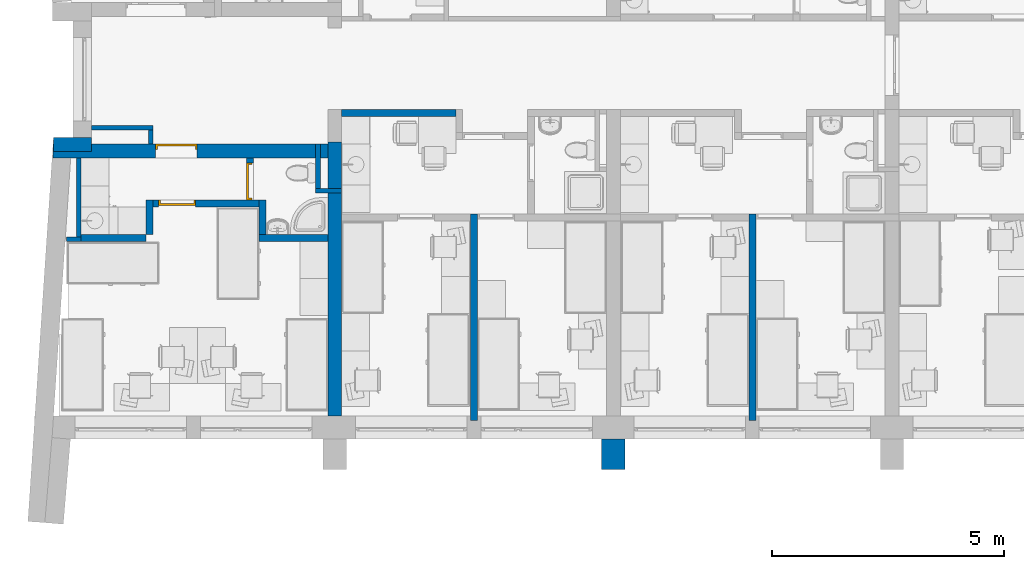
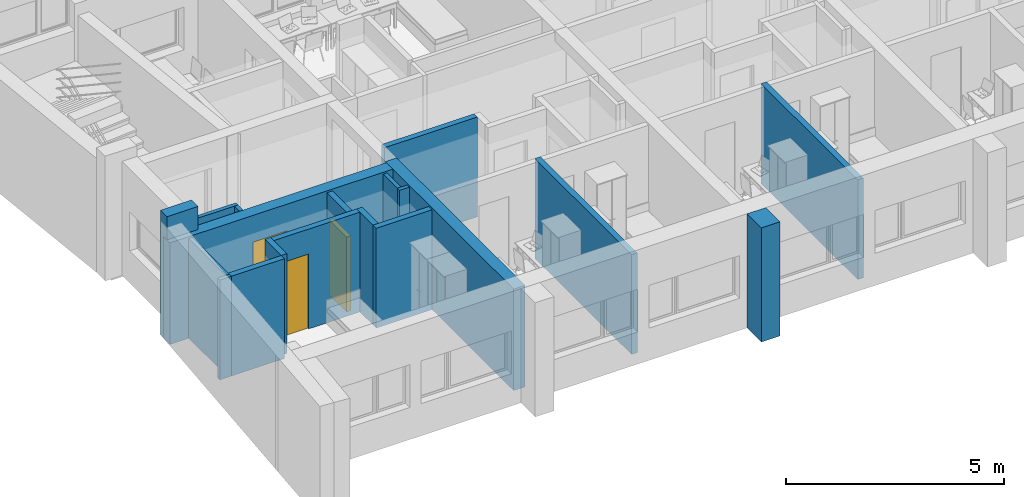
# One storey, part 2 of 165: 19 walls, 3 doors, 3 openings.
"""IFC2X3 building model written with IfcOpenShell, lengths in millimetres."""

from ifc_helpers import new_model, entity, si_unit, converted_unit, money_unit, direction, frame, origin_with_axes, place, context, subcontext, project, spatial, polyline, outline, extrude, faceted_brep, source, transform, mapped, material, material_list, layer, layer_set, layer_usage, type_object, element, fill, save


model = new_model("IFC2X3")

# Units and contexts
model_context = context("Model", 3, precision=1e-05, world=origin_with_axes(), true_north=direction((0.0, 1.0)))
body_context = subcontext(model_context, "Body", "Model", "MODEL_VIEW")
ifc_project = project(units=[si_unit("LENGTHUNIT", "METRE", prefix="MILLI"), si_unit("AREAUNIT", "SQUARE_METRE"), si_unit("VOLUMEUNIT", "CUBIC_METRE"), converted_unit("PLANEANGLEUNIT", "DEGREE", entity("IfcPlaneAngleMeasure", 0.0174532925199), si_unit("PLANEANGLEUNIT", "RADIAN"), dimensions=[0, 0, 0, 0, 0, 0, 0]), si_unit("SOLIDANGLEUNIT", "STERADIAN"), money_unit("USD"), converted_unit("TIMEUNIT", "Year", entity("IfcTimeMeasure", 31556926.0), si_unit("TIMEUNIT", "SECOND"), dimensions=[0, 0, 0, 0, 0, 0, 0]), si_unit("MASSUNIT", "GRAM"), si_unit("THERMODYNAMICTEMPERATUREUNIT", "DEGREE_CELSIUS"), si_unit("LUMINOUSINTENSITYUNIT", "LUMEN")], contexts=[model_context])

# Site, building, storey
site_placement = place(None, origin_with_axes())
site = spatial("IfcSite", under=ifc_project, at=site_placement, Name="Site", CompositionType="ELEMENT")
building_placement = place(site_placement, origin_with_axes())
building = spatial("IfcBuilding", under=site, at=building_placement, Name="Building", CompositionType="ELEMENT")
storey_placement = place(building_placement, frame((0.0, 0.0, 6300.0), z_axis=(0.0, 0.0, 1.0), x_axis=(1.0, 0.0, 0.0)))
storey = spatial("IfcBuildingStorey", under=building, at=storey_placement, Name="4KORRUS", CompositionType="ELEMENT", Elevation=6300.0)

# Walls
ifc_material_1 = material(Name="Olemasolevad seinad tellis, uus viimistlus")
ifc_layer_1 = layer(ifc_material_1, 300.0, ventilated="UNKNOWN")
ifc_layer_set_1 = layer_set([ifc_layer_1], Name="Olemasolevad seinad tellis, uus viimistlus 300")
ifc_layer_usage_1 = layer_usage(ifc_layer_set_1, "AXIS2", "POSITIVE", -300.0)
wall_type_1 = type_object("IfcWallType", Name="Olemasolevad seinad tellis, uus viimistlus 300", PredefinedType="NOTDEFINED")
wall_1_placement = place(storey_placement, frame((-54200.4261075, -13645.7452196, 0.0), z_axis=(0.0, 0.0, 1.0), x_axis=(1.0, 0.0, 0.0)))
element("IfcWallStandardCase", 1, at=wall_1_placement, inside=storey, type_object=wall_type_1, material=ifc_layer_usage_1, Name="VS1", ObjectType="VS1", context=body_context, shape_type="SweptSolid", body=[
    extrude(outline(polyline([(0.0, -300.0), (822.487950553, -300.0), (822.487950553, 0.0), (0.0, 0.0), (0.0, -300.0)])), origin_with_axes(), (0.0, 0.0, 1.0), 3500.0),
])
ifc_layer_2 = layer(ifc_material_1, 500.0, ventilated="UNKNOWN")
ifc_layer_set_2 = layer_set([ifc_layer_2], Name="Olemasolevad seinad tellis, uus viimistlus 500")
ifc_layer_usage_2 = layer_usage(ifc_layer_set_2, "AXIS2", "POSITIVE", -100.0)
wall_type_2 = type_object("IfcWallType", Name="Olemasolevad seinad tellis, uus viimistlus 500", PredefinedType="NOTDEFINED")
wall_2_placement = place(storey_placement, frame((-41990.2967033, -20796.6419407, 0.0), z_axis=(0.0, 0.0, 1.0), x_axis=(0.0, 1.0, 0.0)))
element("IfcWallStandardCase", 2, at=wall_2_placement, inside=storey, type_object=wall_type_2, material=ifc_layer_usage_2, Name="VS1", ObjectType="VS1", context=body_context, shape_type="SweptSolid", body=[
    extrude(outline(polyline([(0.0, -100.0), (657.402041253, -100.0), (657.402041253, 400.0), (0.0, 400.0), (0.0, -100.0)])), origin_with_axes(), (0.0, 0.0, 1.0), 3200.0),
])
ifc_material_2 = material(Name="UmbKipsplaat")
ifc_layer_3 = layer(ifc_material_2, 13.0, ventilated="UNKNOWN")
ifc_layer_4 = layer(ifc_material_2, 13.0, ventilated="UNKNOWN")
ifc_material_3 = material(Name="SOOJUSTUS MINERAALVILL")
ifc_layer_5 = layer(ifc_material_3, 98.0, ventilated="UNKNOWN")
ifc_layer_6 = layer(ifc_material_2, 13.0, ventilated="UNKNOWN")
ifc_layer_7 = layer(ifc_material_2, 13.0, ventilated="UNKNOWN")
ifc_layer_set_3 = layer_set([ifc_layer_3, ifc_layer_4, ifc_layer_5, ifc_layer_6, ifc_layer_7], Name="kipssein150")
ifc_layer_usage_3 = layer_usage(ifc_layer_set_3, "AXIS2", "POSITIVE", -150.0)
wall_type_3 = type_object("IfcWallType", Name="kipssein150 150", PredefinedType="NOTDEFINED")
wall_3_placement = place(storey_placement, frame((-49773.7651372, -15737.1785546, 0.0), z_axis=(0.0, 0.0, 1.0), x_axis=(1.0, 0.0, 0.0)))
element("IfcWallStandardCase", 3, at=wall_3_placement, inside=storey, type_object=wall_type_3, material=ifc_layer_usage_3, Name="SS1", ObjectType="SS1", context=body_context, shape_type="SweptSolid", body=[
    extrude(outline(polyline([(0.0, -150.0), (1483.46843392, -150.0), (1483.46843392, 0.0), (0.0, 0.0), (0.0, -150.0)])), origin_with_axes(), (0.0, 0.0, 1.0), 2800.0),
])
ifc_layer_usage_4 = layer_usage(ifc_layer_set_3, "AXIS2", "POSITIVE", 0.0)
wall_4_placement = place(storey_placement, frame((-52203.4064051, -15738.0262806, 0.0), z_axis=(0.0, 0.0, 1.0), x_axis=(-1.0, 0.0, 0.0)))
element("IfcWallStandardCase", 4, at=wall_4_placement, inside=storey, type_object=wall_type_3, material=ifc_layer_usage_4, Name="SS1", ObjectType="SS1", context=body_context, shape_type="SweptSolid", body=[
    extrude(outline(polyline([(0.0, 0.0), (1425.08570546, 0.0), (1425.08570546, 150.0), (0.0, 150.0), (0.0, 0.0)])), origin_with_axes(), (0.0, 0.0, 1.0), 2800.0),
])

# Wall, opening, door
ifc_layer_usage_5 = layer_usage(ifc_layer_set_3, "AXIS2", "POSITIVE", 0.0)
wall_5_placement = place(storey_placement, frame((-49773.7651372, -14989.5106464, 0.0), z_axis=(0.0, 0.0, 1.0), x_axis=(-1.0, 0.0, 0.0)))
wall_5 = element("IfcWallStandardCase", 5, at=wall_5_placement, inside=storey, type_object=wall_type_3, material=ifc_layer_usage_5, Name="SS1", ObjectType="SS1", context=body_context, shape_type="SweptSolid", body=[
    extrude(outline(polyline([(0.0, 0.0), (2429.64126784, 0.0), (2429.64126784, 150.0), (0.0, 150.0), (0.0, 0.0)])), origin_with_axes(), (0.0, 0.0, 1.0), 2800.0),
])
opening_1_placement = place(wall_5_placement, frame((1761.78052714, 0.0, 0.0), z_axis=(0.0, 0.0, 1.0), x_axis=(1.0, 0.0, 0.0)))
opening_1 = element("IfcOpeningElement", 6, at=opening_1_placement, cuts=wall_5, Name="SU3-5", context=body_context, shape_type="SweptSolid", body=[
    extrude(outline(polyline([(-400.0, 0.0), (400.0, 0.0), (400.0, 2100.0), (-400.0, 2100.0), (-400.0, 0.0)])), frame((0.0, 150.0, 0.0), z_axis=(0.0, -1.0, 0.0), x_axis=(1.0, 0.0, 0.0)), (0.0, 0.0, 1.0), 450.0),
])
ifc_material_4 = material(Name="Background")
ifc_material_list = material_list([ifc_material_4])
door_style_1 = type_object("IfcDoorStyle", Name="Door 19", ConstructionType="NOTDEFINED", OperationType="SINGLE_SWING_RIGHT", ParameterTakesPrecedence=False, Sizeable=False)
shared_shape_1 = source(origin_with_axes(), body_context, "Body", "Brep", [
    faceted_brep([(-360.0, -75.0, 0.0), (-360.0, -75.0, 2060.0), (-360.0, -150.0, 2060.0), (-360.0, -150.0, 0.0), (-372.0, -75.0, 2060.0), (-372.0, -75.0, 0.0), (-372.0, -35.0, 2060.0), (-400.0, -35.0, 2060.0), (-400.0, -150.0, 2060.0), (-400.0, -150.0, 0.0), (-400.0, -35.0, 0.0), (-372.0, -35.0, 0.0)], [[[0, 1, 2, 3]], [[4, 1, 0, 5]], [[4, 6, 7, 8, 2, 1]], [[2, 8, 9, 3]], [[5, 0, 3, 9, 10, 11]], [[6, 4, 5, 11]], [[6, 11, 10, 7]], [[9, 8, 7, 10]]]),
    faceted_brep([(372.0, -75.0, 2060.0), (360.0, -75.0, 2060.0), (360.0, -150.0, 2060.0), (400.0, -150.0, 2060.0), (400.0, -35.0, 2060.0), (372.0, -35.0, 2060.0), (372.0, -75.0, 0.0), (360.0, -75.0, 0.0), (360.0, -150.0, 0.0), (400.0, -150.0, 0.0), (400.0, -35.0, 0.0), (372.0, -35.0, 0.0)], [[[0, 1, 2, 3, 4, 5]], [[1, 0, 6, 7]], [[1, 7, 8, 2]], [[2, 8, 9, 3]], [[3, 9, 10, 4]], [[11, 5, 4, 10]], [[0, 5, 11, 6]], [[6, 11, 10, 9, 8, 7]]]),
    faceted_brep([(-372.0, -35.0, 2072.0), (-372.0, -35.0, 2060.0), (-400.0, -35.0, 2060.0), (-400.0, -35.0, 2100.0), (400.0, -35.0, 2100.0), (400.0, -35.0, 2060.0), (372.0, -35.0, 2060.0), (372.0, -35.0, 2072.0), (-372.0, -75.0, 2072.0), (-372.0, -75.0, 2060.0), (-360.0, -75.0, 2060.0), (-360.0, -150.0, 2060.0), (-400.0, -150.0, 2060.0), (-400.0, -150.0, 2100.0), (400.0, -150.0, 2100.0), (400.0, -150.0, 2060.0), (372.0, -75.0, 2060.0), (360.0, -150.0, 2060.0), (360.0, -75.0, 2060.0), (372.0, -75.0, 2072.0)], [[[0, 1, 2, 3, 4, 5, 6, 7]], [[1, 0, 8, 9]], [[9, 10, 11, 12, 2, 1]], [[12, 13, 3, 2]], [[13, 14, 4, 3]], [[14, 15, 5, 4]], [[16, 6, 5, 15, 17, 18]], [[7, 6, 16, 19]], [[0, 7, 19, 8]], [[16, 18, 10, 9, 8, 19]], [[10, 18, 17, 11]], [[15, 14, 13, 12, 11, 17]]]),
    faceted_brep([(372.0, -35.0, 0.0), (372.0, -75.0, 0.0), (-372.0, -75.0, 0.0), (-372.0, -35.0, 0.0), (372.0, -35.0, 2072.0), (372.0, -75.0, 2072.0), (-372.0, -75.0, 2072.0), (-372.0, -35.0, 2072.0)], [[[0, 1, 2, 3]], [[4, 5, 1, 0]], [[1, 5, 6, 2]], [[3, 2, 6, 7]], [[0, 3, 7, 4]], [[7, 6, 5, 4]]]),
])
door_1_placement = place(opening_1_placement, frame((-400.0, 0.0, 0.0), z_axis=(0.0, 0.0, 1.0), x_axis=(1.0, 0.0, 0.0)))
door_1 = element("IfcDoor", 7, at=door_1_placement, inside=storey, type_object=door_style_1, material=ifc_material_list, Name="SU3-5", ObjectType="Toa uks", OverallHeight=2100.0, OverallWidth=800.0, context=body_context, shape_type="MappedRepresentation", body=[
    mapped(shared_shape_1, transform((400.0, 150.0, 0.0))),
])
fill(opening_1, door_1)

# Walls
ifc_layer_usage_6 = layer_usage(ifc_layer_set_3, "AXIS2", "POSITIVE", -150.0)
wall_6_placement = place(storey_placement, frame((-49773.7651372, -15737.1785546, 0.0), z_axis=(0.0, 0.0, 1.0), x_axis=(0.0, 1.0, 0.0)))
element("IfcWallStandardCase", 8, at=wall_6_placement, inside=storey, type_object=wall_type_3, material=ifc_layer_usage_6, Name="SS1", ObjectType="SS1", context=body_context, shape_type="SweptSolid", body=[
    extrude(outline(polyline([(0.0, -150.0), (747.667908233, -150.0), (747.667908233, 0.0), (0.0, 0.0), (0.0, -150.0)])), origin_with_axes(), (0.0, 0.0, 1.0), 2800.0),
])
ifc_layer_usage_7 = layer_usage(ifc_layer_set_3, "AXIS2", "POSITIVE", -150.0)
wall_7_placement = place(storey_placement, frame((-52203.4064051, -15738.0262806, 0.0), z_axis=(0.0, 0.0, 1.0), x_axis=(0.0, 1.0, 0.0)))
element("IfcWallStandardCase", 9, at=wall_7_placement, inside=storey, type_object=wall_type_3, material=ifc_layer_usage_7, Name="SS1", ObjectType="SS1", context=body_context, shape_type="SweptSolid", body=[
    extrude(outline(polyline([(0.0, -150.0), (748.515634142, -150.0), (748.515634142, 0.0), (0.0, 0.0), (0.0, -150.0)])), origin_with_axes(), (0.0, 0.0, 1.0), 2800.0),
])

# Wall, opening, door
ifc_layer_usage_8 = layer_usage(ifc_layer_set_3, "AXIS2", "POSITIVE", 0.0)
wall_8_placement = place(storey_placement, frame((-50040.4499069, -14087.3375674, 0.0), z_axis=(0.0, 0.0, 1.0), x_axis=(0.0, -1.0, 0.0)))
wall_8 = element("IfcWallStandardCase", 10, at=wall_8_placement, inside=storey, type_object=wall_type_3, material=ifc_layer_usage_8, Name="SS1", ObjectType="SS1", context=body_context, shape_type="SweptSolid", body=[
    extrude(outline(polyline([(0.0, 0.0), (902.173079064, 0.0), (902.173079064, 150.0), (0.0, 150.0), (0.0, 0.0)])), origin_with_axes(), (0.0, 0.0, 1.0), 2800.0),
])
opening_2_placement = place(wall_8_placement, frame((502.173079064, 0.0, 0.0), z_axis=(0.0, 0.0, 1.0), x_axis=(1.0, 0.0, 0.0)))
opening_2 = element("IfcOpeningElement", 11, at=opening_2_placement, cuts=wall_8, Name="SU3-3", context=body_context, shape_type="SweptSolid", body=[
    extrude(outline(polyline([(-400.0, -2100.0), (400.0, -2100.0), (400.0, 0.0), (-400.0, 0.0), (-400.0, -2100.0)])), frame((0.0, 150.0, 0.0), z_axis=(0.0, 1.0, 0.0), x_axis=(1.0, 0.0, 0.0)), (0.0, 0.0, -1.0), 450.0),
])
door_style_2 = type_object("IfcDoorStyle", Name="Door 19", ConstructionType="NOTDEFINED", OperationType="SINGLE_SWING_LEFT", ParameterTakesPrecedence=False, Sizeable=False)
shared_shape_2 = source(origin_with_axes(), body_context, "Body", "Brep", [
    faceted_brep([(360.0, -40.0, 0.0), (360.0, -115.0, 0.0), (360.0, -115.0, 2060.0), (360.0, -40.0, 2060.0), (372.0, -40.0, 0.0), (372.0, 0.0, 0.0), (400.0, 0.0, 0.0), (400.0, -115.0, 0.0), (400.0, -115.0, 2060.0), (372.0, -40.0, 2060.0), (400.0, 0.0, 2060.0), (372.0, 0.0, 2060.0)], [[[0, 1, 2, 3]], [[4, 5, 6, 7, 1, 0]], [[2, 1, 7, 8]], [[9, 3, 2, 8, 10, 11]], [[9, 4, 0, 3]], [[11, 5, 4, 9]], [[11, 10, 6, 5]], [[7, 6, 10, 8]]]),
    faceted_brep([(-372.0, -40.0, 2060.0), (-372.0, 0.0, 2060.0), (-400.0, 0.0, 2060.0), (-400.0, -115.0, 2060.0), (-360.0, -115.0, 2060.0), (-360.0, -40.0, 2060.0), (-372.0, -40.0, 0.0), (-372.0, 0.0, 0.0), (-400.0, 0.0, 0.0), (-400.0, -115.0, 0.0), (-360.0, -115.0, 0.0), (-360.0, -40.0, 0.0)], [[[0, 1, 2, 3, 4, 5]], [[0, 6, 7, 1]], [[7, 8, 2, 1]], [[3, 2, 8, 9]], [[4, 3, 9, 10]], [[5, 4, 10, 11]], [[5, 11, 6, 0]], [[6, 11, 10, 9, 8, 7]]]),
    faceted_brep([(372.0, 0.0, 2072.0), (-372.0, 0.0, 2072.0), (-372.0, 0.0, 2060.0), (-400.0, 0.0, 2060.0), (-400.0, 0.0, 2100.0), (400.0, 0.0, 2100.0), (400.0, 0.0, 2060.0), (372.0, 0.0, 2060.0), (372.0, -40.0, 2072.0), (-372.0, -40.0, 2072.0), (-372.0, -40.0, 2060.0), (-360.0, -40.0, 2060.0), (-360.0, -115.0, 2060.0), (-400.0, -115.0, 2060.0), (-400.0, -115.0, 2100.0), (400.0, -115.0, 2100.0), (400.0, -115.0, 2060.0), (372.0, -40.0, 2060.0), (360.0, -115.0, 2060.0), (360.0, -40.0, 2060.0)], [[[0, 1, 2, 3, 4, 5, 6, 7]], [[0, 8, 9, 1]], [[1, 9, 10, 2]], [[10, 11, 12, 13, 3, 2]], [[14, 4, 3, 13]], [[15, 5, 4, 14]], [[16, 6, 5, 15]], [[17, 7, 6, 16, 18, 19]], [[7, 17, 8, 0]], [[10, 9, 8, 17, 19, 11]], [[19, 18, 12, 11]], [[13, 12, 18, 16, 15, 14]]]),
    faceted_brep([(-372.0, 0.0, 0.0), (372.0, 0.0, 0.0), (372.0, -40.0, 0.0), (-372.0, -40.0, 0.0), (-372.0, 0.0, 2072.0), (372.0, 0.0, 2072.0), (372.0, -40.0, 2072.0), (-372.0, -40.0, 2072.0)], [[[0, 1, 2, 3]], [[0, 4, 5, 1]], [[1, 5, 6, 2]], [[3, 2, 6, 7]], [[4, 0, 3, 7]], [[5, 4, 7, 6]]]),
])
door_2_placement = place(opening_2_placement, frame((400.0, 0.0, 0.0), z_axis=(0.0, 0.0, 1.0), x_axis=(-1.0, 0.0, 0.0)))
door_2 = element("IfcDoor", 12, at=door_2_placement, inside=storey, type_object=door_style_2, material=ifc_material_list, Name="SU3-3", ObjectType="WC-uks", OverallHeight=2100.0, OverallWidth=800.0, context=body_context, shape_type="MappedRepresentation", body=[
    mapped(shared_shape_2, transform((400.0, 0.0, 0.0))),
])
fill(opening_2, door_2)

# Walls
ifc_layer_usage_9 = layer_usage(ifc_layer_set_3, "AXIS2", "POSITIVE", 0.0)
wall_9_placement = place(storey_placement, frame((-45533.8623684, -13039.2398994, 0.0), z_axis=(0.0, 0.0, 1.0), x_axis=(-1.0, 0.0, 0.0)))
element("IfcWallStandardCase", 13, at=wall_9_placement, inside=storey, type_object=wall_type_3, material=ifc_layer_usage_9, Name="SS1", ObjectType="SS1", context=body_context, shape_type="SweptSolid", body=[
    extrude(outline(polyline([(0.0, 0.0), (2456.43433493, 0.0), (2456.43433493, 150.0), (0.0, 150.0), (0.0, 0.0)])), origin_with_axes(), (0.0, 0.0, 1.0), 2800.0),
])
ifc_layer_usage_10 = layer_usage(ifc_layer_set_3, "AXIS2", "POSITIVE", 0.0)
wall_10_placement = place(storey_placement, frame((-45070.2967033, -19739.2398994, 0.0), z_axis=(0.0, 0.0, 1.0), x_axis=(0.0, 1.0, 0.0)))
element("IfcWallStandardCase", 14, at=wall_10_placement, inside=storey, type_object=wall_type_3, material=ifc_layer_usage_10, Name="SS1", ObjectType="SS1", context=body_context, shape_type="SweptSolid", body=[
    extrude(outline(polyline([(0.0, 0.0), (4450.0, 0.0), (4450.0, 150.0), (0.0, 150.0), (0.0, 0.0)])), origin_with_axes(), (0.0, 0.0, 1.0), 2800.0),
])
ifc_layer_usage_11 = layer_usage(ifc_layer_set_3, "AXIS2", "POSITIVE", 0.0)
wall_11_placement = place(storey_placement, frame((-39070.2967033, -19739.2398994, 0.0), z_axis=(0.0, 0.0, 1.0), x_axis=(0.0, 1.0, 0.0)))
element("IfcWallStandardCase", 15, at=wall_11_placement, inside=storey, type_object=wall_type_3, material=ifc_layer_usage_11, Name="SS1", ObjectType="SS1", context=body_context, shape_type="SweptSolid", body=[
    extrude(outline(polyline([(0.0, 0.0), (4450.0, 0.0), (4450.0, 150.0), (0.0, 150.0), (0.0, 0.0)])), origin_with_axes(), (0.0, 0.0, 1.0), 2800.0),
])

# Wall, opening, door
ifc_material_5 = material(Name="Olemasolevad seinad tellis, uus viimistlus")
ifc_layer_8 = layer(ifc_material_5, 300.0, ventilated="UNKNOWN")
ifc_layer_set_4 = layer_set([ifc_layer_8], Name="Olemasolevad seinad tellis, uus viimistlus  300")
ifc_layer_usage_12 = layer_usage(ifc_layer_set_4, "AXIS2", "POSITIVE", -300.0)
wall_type_4 = type_object("IfcWallType", Name="Olemasolevad seinad tellis, uus viimistlus  300", PredefinedType="NOTDEFINED")
wall_12_placement = place(storey_placement, frame((-54209.8419994, -13787.3375674, 0.0), z_axis=(0.0, 0.0, 1.0), x_axis=(1.0, 0.0, 0.0)))
wall_12 = element("IfcWallStandardCase", 16, at=wall_12_placement, inside=storey, type_object=wall_type_4, material=ifc_layer_usage_12, Name="KS1", ObjectType="KS1", context=body_context, shape_type="SweptSolid", body=[
    extrude(outline(polyline([(0.0, -300.0), (6219.54529607, -300.0), (6219.54529607, 0.0), (0.0, 0.0), (0.0, -300.0)])), origin_with_axes(), (0.0, 0.0, 1.0), 2850.0),
])
opening_3_placement = place(wall_12_placement, frame((2656.43559431, 0.0, 0.0), z_axis=(0.0, 0.0, 1.0), x_axis=(1.0, 0.0, 0.0)))
opening_3 = element("IfcOpeningElement", 17, at=opening_3_placement, cuts=wall_12, Name="SU2-6", context=body_context, shape_type="SweptSolid", body=[
    extrude(outline(polyline([(-450.0, -2100.0), (450.0, -2100.0), (450.0, 0.0), (-450.0, 0.0), (-450.0, -2100.0)])), frame((0.0, -300.0, 0.0), z_axis=(0.0, -1.0, 0.0), x_axis=(-1.0, 0.0, 0.0)), (0.0, 0.0, -1.0), 900.0),
])
door_style_3 = type_object("IfcDoorStyle", Name="Door 19", ConstructionType="NOTDEFINED", OperationType="SINGLE_SWING_LEFT", ParameterTakesPrecedence=False, Sizeable=False)
shared_shape_3 = source(origin_with_axes(), body_context, "Body", "Brep", [
    faceted_brep([(410.0, -40.0, 0.0), (410.0, -115.0, 0.0), (410.0, -115.0, 2060.0), (410.0, -40.0, 2060.0), (422.0, -40.0, 0.0), (422.0, 0.0, 0.0), (450.0, 0.0, 0.0), (450.0, -115.0, 0.0), (450.0, -115.0, 2060.0), (422.0, -40.0, 2060.0), (450.0, 0.0, 2060.0), (422.0, 0.0, 2060.0)], [[[0, 1, 2, 3]], [[4, 5, 6, 7, 1, 0]], [[2, 1, 7, 8]], [[9, 3, 2, 8, 10, 11]], [[9, 4, 0, 3]], [[11, 5, 4, 9]], [[11, 10, 6, 5]], [[7, 6, 10, 8]]]),
    faceted_brep([(-422.0, -40.0, 2060.0), (-422.0, 0.0, 2060.0), (-450.0, 0.0, 2060.0), (-450.0, -115.0, 2060.0), (-410.0, -115.0, 2060.0), (-410.0, -40.0, 2060.0), (-422.0, -40.0, 0.0), (-422.0, 0.0, 0.0), (-450.0, 0.0, 0.0), (-450.0, -115.0, 0.0), (-410.0, -115.0, 0.0), (-410.0, -40.0, 0.0)], [[[0, 1, 2, 3, 4, 5]], [[0, 6, 7, 1]], [[7, 8, 2, 1]], [[3, 2, 8, 9]], [[4, 3, 9, 10]], [[5, 4, 10, 11]], [[5, 11, 6, 0]], [[6, 11, 10, 9, 8, 7]]]),
    faceted_brep([(422.0, 0.0, 2072.0), (-422.0, 0.0, 2072.0), (-422.0, 0.0, 2060.0), (-450.0, 0.0, 2060.0), (-450.0, 0.0, 2100.0), (450.0, 0.0, 2100.0), (450.0, 0.0, 2060.0), (422.0, 0.0, 2060.0), (422.0, -40.0, 2072.0), (-422.0, -40.0, 2072.0), (-422.0, -40.0, 2060.0), (-410.0, -40.0, 2060.0), (-410.0, -115.0, 2060.0), (-450.0, -115.0, 2060.0), (-450.0, -115.0, 2100.0), (450.0, -115.0, 2100.0), (450.0, -115.0, 2060.0), (422.0, -40.0, 2060.0), (410.0, -115.0, 2060.0), (410.0, -40.0, 2060.0)], [[[0, 1, 2, 3, 4, 5, 6, 7]], [[0, 8, 9, 1]], [[1, 9, 10, 2]], [[10, 11, 12, 13, 3, 2]], [[14, 4, 3, 13]], [[15, 5, 4, 14]], [[16, 6, 5, 15]], [[17, 7, 6, 16, 18, 19]], [[7, 17, 8, 0]], [[10, 9, 8, 17, 19, 11]], [[19, 18, 12, 11]], [[13, 12, 18, 16, 15, 14]]]),
    faceted_brep([(-422.0, 0.0, 0.0), (422.0, 0.0, 0.0), (422.0, -40.0, 0.0), (-422.0, -40.0, 0.0), (-422.0, 0.0, 2072.0), (422.0, 0.0, 2072.0), (422.0, -40.0, 2072.0), (-422.0, -40.0, 2072.0)], [[[0, 1, 2, 3]], [[0, 4, 5, 1]], [[1, 5, 6, 2]], [[3, 2, 6, 7]], [[4, 0, 3, 7]], [[5, 4, 7, 6]]]),
])
door_3_placement = place(opening_3_placement, frame((-450.0, 0.0, 0.0), z_axis=(0.0, 0.0, 1.0), x_axis=(1.0, 0.0, 0.0)))
door_3 = element("IfcDoor", 18, at=door_3_placement, inside=storey, type_object=door_style_3, material=ifc_material_list, Name="SU2-6", ObjectType="Korteri välisuks", OverallHeight=2100.0, OverallWidth=900.0, context=body_context, shape_type="MappedRepresentation", body=[
    mapped(shared_shape_3, transform((450.0, 0.0, 0.0))),
])
fill(opening_3, door_3)

# Walls
ifc_layer_usage_13 = layer_usage(ifc_layer_set_4, "AXIS2", "POSITIVE", 0.0)
wall_13_placement = place(storey_placement, frame((-47990.2967033, -19639.2398994, 0.0), z_axis=(0.0, 0.0, 1.0), x_axis=(0.0, 1.0, 0.0)))
element("IfcWallStandardCase", 19, at=wall_13_placement, inside=storey, type_object=wall_type_4, material=ifc_layer_usage_13, Name="KS1", ObjectType="KS1", context=body_context, shape_type="SweptSolid", body=[
    extrude(outline(polyline([(0.0, 0.0), (5900.0, 0.0), (5900.0, 300.0), (0.0, 300.0), (0.0, 0.0)])), origin_with_axes(), (0.0, 0.0, 1.0), 2850.0),
])
ifc_material_6 = material(Name="krohv")
ifc_layer_9 = layer(ifc_material_6, 2.0, ventilated="UNKNOWN")
ifc_layer_10 = layer(ifc_material_6, 10.0, ventilated="UNKNOWN")
ifc_material_7 = material(Name="Kergplokk")
ifc_layer_11 = layer(ifc_material_7, 76.0, ventilated="UNKNOWN")
ifc_layer_12 = layer(ifc_material_6, 10.0, ventilated="UNKNOWN")
ifc_layer_13 = layer(ifc_material_6, 2.0, ventilated="UNKNOWN")
ifc_layer_set_5 = layer_set([ifc_layer_9, ifc_layer_10, ifc_layer_11, ifc_layer_12, ifc_layer_13], Name="Kergplokk Bauroc 100")
ifc_layer_usage_14 = layer_usage(ifc_layer_set_5, "AXIS2", "POSITIVE", 0.0)
wall_type_5 = type_object("IfcWallType", Name="Kergplokk Bauroc 100 100", PredefinedType="NOTDEFINED")
wall_14_placement = place(storey_placement, frame((-53377.938157, -13487.3375674, 0.0), z_axis=(0.0, 0.0, 1.0), x_axis=(1.0, 0.0, 0.0)))
element("IfcWallStandardCase", 20, at=wall_14_placement, inside=storey, type_object=wall_type_5, material=ifc_layer_usage_14, Name="SS2", ObjectType="SS2", context=body_context, shape_type="SweptSolid", body=[
    extrude(outline(polyline([(0.0, 0.0), (1324.53175192, 0.0), (1324.53175192, 100.0), (0.0, 100.0), (0.0, 0.0)])), origin_with_axes(), (0.0, 0.0, 1.0), 2800.0),
])
ifc_layer_usage_15 = layer_usage(ifc_layer_set_5, "AXIS2", "POSITIVE", -100.0)
wall_15_placement = place(storey_placement, frame((-52053.4064051, -13487.3375674, 0.0), z_axis=(0.0, 0.0, 1.0), x_axis=(0.0, -1.0, 0.0)))
element("IfcWallStandardCase", 21, at=wall_15_placement, inside=storey, type_object=wall_type_5, material=ifc_layer_usage_15, Name="SS2", ObjectType="SS2", context=body_context, shape_type="SweptSolid", body=[
    extrude(outline(polyline([(0.0, -100.0), (293.50271178, -100.0), (293.50271178, 0.0), (0.0, 0.0), (0.0, -100.0)])), origin_with_axes(), (0.0, 0.0, 1.0), 2800.0),
])
ifc_layer_usage_16 = layer_usage(ifc_layer_set_5, "AXIS2", "POSITIVE", -100.0)
wall_16_placement = place(storey_placement, frame((-53608.4921105, -14087.3375674, 0.0), z_axis=(0.0, 0.0, 1.0), x_axis=(0.0, -1.0, 0.0)))
element("IfcWallStandardCase", 22, at=wall_16_placement, inside=storey, type_object=wall_type_5, material=ifc_layer_usage_16, Name="SS2", ObjectType="SS2", context=body_context, shape_type="SweptSolid", body=[
    extrude(outline(polyline([(0.0, -100.0), (1700.68871321, -100.0), (1700.68871321, 0.0), (0.0, 0.0), (0.0, -100.0)])), origin_with_axes(), (0.0, 0.0, 1.0), 2800.0),
])
ifc_layer_usage_17 = layer_usage(ifc_layer_set_5, "AXIS2", "POSITIVE", -100.0)
wall_17_placement = place(storey_placement, frame((-48550.2967033, -14839.0262806, 0.0), z_axis=(0.0, 0.0, 1.0), x_axis=(0.0, 1.0, 0.0)))
element("IfcWallStandardCase", 23, at=wall_17_placement, inside=storey, type_object=wall_type_5, material=ifc_layer_usage_17, Name="SS2", ObjectType="SS2", context=body_context, shape_type="SweptSolid", body=[
    extrude(outline(polyline([(0.0, -100.0), (1051.68871321, -100.0), (1051.68871321, 0.0), (0.0, 0.0), (0.0, -100.0)])), origin_with_axes(), (0.0, 0.0, 1.0), 2800.0),
])
ifc_layer_usage_18 = layer_usage(ifc_layer_set_5, "AXIS2", "POSITIVE", 0.0)
wall_18_placement = place(storey_placement, frame((-48550.2967033, -14839.0262806, 0.0), z_axis=(0.0, 0.0, 1.0), x_axis=(1.0, 0.0, 0.0)))
element("IfcWallStandardCase", 24, at=wall_18_placement, inside=storey, type_object=wall_type_5, material=ifc_layer_usage_18, Name="SS2", ObjectType="SS2", context=body_context, shape_type="SweptSolid", body=[
    extrude(outline(polyline([(0.0, 0.0), (560.0, 0.0), (560.0, 100.0), (0.0, 100.0), (0.0, 0.0)])), origin_with_axes(), (0.0, 0.0, 1.0), 2800.0),
])
ifc_layer_usage_19 = layer_usage(ifc_layer_set_5, "AXIS2", "POSITIVE", 0.0)
wall_19_placement = place(storey_placement, frame((-53608.4921105, -15788.0262806, 0.0), z_axis=(0.0, 0.0, 1.0), x_axis=(-1.0, 0.0, 0.0)))
element("IfcWallStandardCase", 25, at=wall_19_placement, inside=storey, type_object=wall_type_5, material=ifc_layer_usage_19, Name="SS2", ObjectType="SS2", context=body_context, shape_type="SweptSolid", body=[
    extrude(outline(polyline([(0.0, 0.0), (314.260803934, 0.0), (314.260803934, 100.0), (0.0, 100.0), (0.0, 0.0)])), origin_with_axes(), (0.0, 0.0, 1.0), 2800.0),
])

save(model, "model.ifc")
